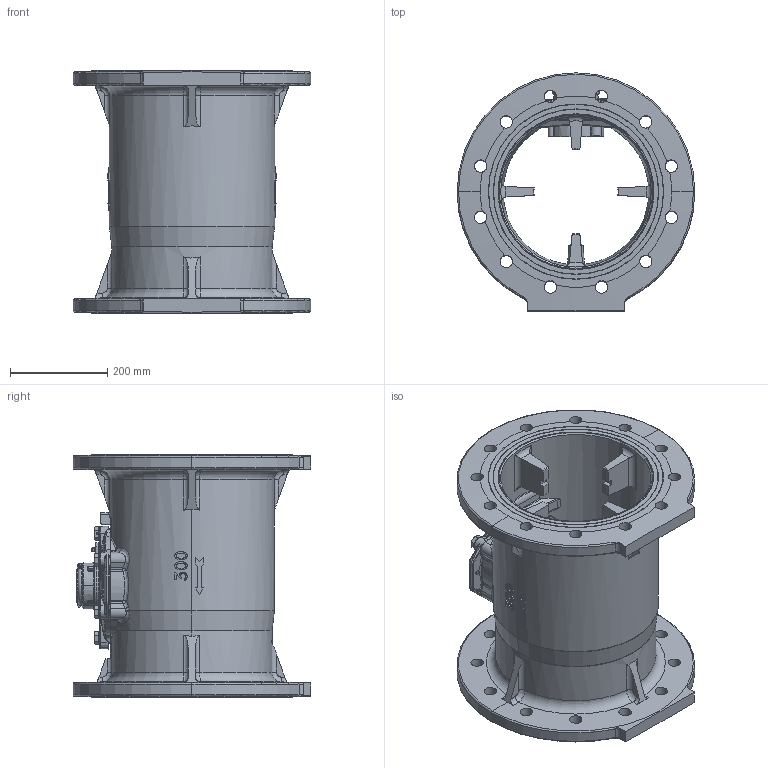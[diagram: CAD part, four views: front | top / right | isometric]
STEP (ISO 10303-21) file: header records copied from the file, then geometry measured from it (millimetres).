
FILE_DESCRIPTION (( 'STEP AP203' ), '1' );
FILE_NAME ('13380009-00,WT-II 12'''' BS m3.STEP', '2011-05-16T06:52:31', ( 'àøã-ãìéä áò"î' ), ( '' ), 'SwSTEP 2.0', 'SolidWorks 2011', '' );
FILE_SCHEMA (( 'CONFIG_CONTROL_DESIGN' ));
Length unit declared in the file: millimetre
Products named in the file (10): 13380009-00,WT-II 12'''' BS m3; 21081910-00,Hex cap screw M16x2x45 DIN 933 drilled-2; Hex cap screws MxL DIN 933(M16x2x45(21081909 -00) )-2; 32280155-08,Body WT 12(3 22 804 09-06); 21082009-21,Regulator cap screw WT-7; 25277209-11,25277210-03,Cover WT 10''''-12''''(25277209 -11)-1; 25824619-00,Plastic cover ARAD lid-1; p,26710709-07,Lid pin-5; p,27630309-05,Plastic lid ARAD(hor)-1-6; 25824609-01,Plastic cover 87x55;14 TPI GAPS-1-1
Assembly tree (12 placements, depth 3):
  13380009-00,WT-II 12'''' BS m3
    Hex cap screws MxL DIN 933(M16x2x45(21081909 -00) )-2  x4
    32280155-08,Body WT 12(3 22 804 09-06)
    21082009-21,Regulator cap screw WT-7
    25277209-11,25277210-03,Cover WT 10''''-12''''(25277209 -11)-1
    25824619-00,Plastic cover ARAD lid-1
      25824609-01,Plastic cover 87x55;14 TPI GAPS-1-1
      p,26710709-07,Lid pin-5
      p,27630309-05,Plastic lid ARAD(hor)-1-6
    21081910-00,Hex cap screw M16x2x45 DIN 933 drilled-2
Bounding box: 489 x 489.5 x 499 mm (x, y, z)
Volume: 14814739.6 mm3; surface area: 1760152.8 mm2
Topology: 11 solids, 11 shells, 2022 faces, 5088 edges, 3049 vertices
Faces by surface type: plane 595, bspline 512, cylinder 465, cone 272, torus 162, sphere 16
Entity records: 85757 total; most frequent: CARTESIAN_POINT 42713, ORIENTED_EDGE 9672, DIRECTION 7590, EDGE_CURVE 4836, AXIS2_PLACEMENT_3D 3005, VERTEX_POINT 2952, EDGE_LOOP 2080, ADVANCED_FACE 1941
